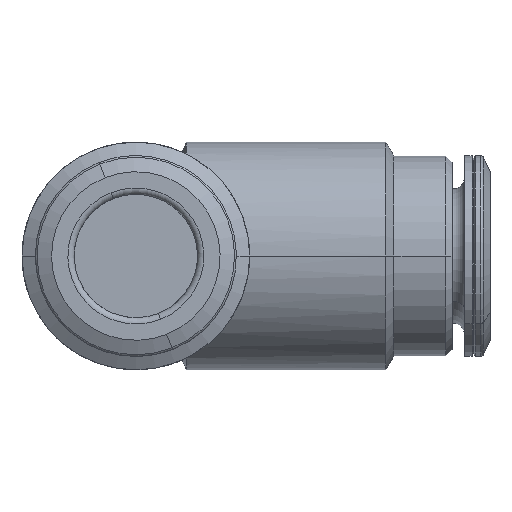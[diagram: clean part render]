
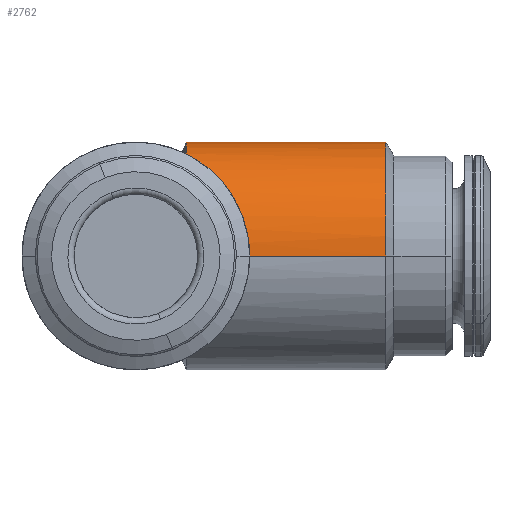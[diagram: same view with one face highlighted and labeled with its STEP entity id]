
A CAD part, left-side view. The second image highlights one B-rep face of the part: STEP entity #2762.
In plain terms, the highlighted cylindrical face has radius 9 mm (diameter 18 mm), a partial arc.
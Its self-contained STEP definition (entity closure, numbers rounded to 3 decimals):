
#269 = AXIS2_PLACEMENT_3D ( 'NONE', #7805, #5015, #1486 ) ;
#462 = ORIENTED_EDGE ( 'NONE', *, *, #3853, .F. ) ;
#555 = CARTESIAN_POINT ( 'NONE',  ( 0., -3.996, 0. ) ) ;
#563 = DIRECTION ( 'NONE',  ( 0., 1., 0. ) ) ;
#604 = CARTESIAN_POINT ( 'NONE',  ( 9., -9., 0. ) ) ;
#726 = DIRECTION ( 'NONE',  ( 0., -1., 0. ) ) ;
#752 = CARTESIAN_POINT ( 'NONE',  ( 7.146, -7.146, 6.503 ) ) ;
#804 = LINE ( 'NONE', #8904, #4313 ) ;
#1032 = EDGE_CURVE ( 'NONE', #8640, #6565, #5906, .T. ) ;
#1113 = CARTESIAN_POINT ( 'NONE',  ( -9., -19.765, 0. ) ) ;
#1182 = CARTESIAN_POINT ( 'NONE',  ( 9., -9., 3.516 ) ) ;
#1320 = ORIENTED_EDGE ( 'NONE', *, *, #7125, .T. ) ;
#1486 = DIRECTION ( 'NONE',  ( -1., 0., 0. ) ) ;
#2082 = DIRECTION ( 'NONE',  ( -1., 0., 0. ) ) ;
#2085 = CARTESIAN_POINT ( 'NONE',  ( 3.996, -3.996, 8.064 ) ) ;
#2349 = VERTEX_POINT ( 'NONE', #8930 ) ;
#2540 = VERTEX_POINT ( 'NONE', #8956 ) ;
#2552 = DIRECTION ( 'NONE',  ( -1., 0., 0. ) ) ;
#2624 = DIRECTION ( 'NONE',  ( 0., 1., 0. ) ) ;
#2634 =( BOUNDED_CURVE ( )  B_SPLINE_CURVE ( 3, ( #604, #1182, #752, #2085 ),
 .UNSPECIFIED., .F., .F. ) 
 B_SPLINE_CURVE_WITH_KNOTS ( ( 4, 4 ),
 ( 3.142, 4.252 ),
 .UNSPECIFIED. ) 
 CURVE ( )  GEOMETRIC_REPRESENTATION_ITEM ( )  RATIONAL_B_SPLINE_CURVE ( ( 1., 0.9, 0.9, 1. ) ) 
 REPRESENTATION_ITEM ( '' )  );
#2762 = ADVANCED_FACE ( 'NONE', ( #7150 ), #8782, .T. ) ;
#2792 =( BOUNDED_CURVE ( )  B_SPLINE_CURVE ( 3, ( #7582, #5577, #6239, #5553 ),
 .UNSPECIFIED., .F., .F. ) 
 B_SPLINE_CURVE_WITH_KNOTS ( ( 4, 4 ),
 ( 3.142, 4.252 ),
 .UNSPECIFIED. ) 
 CURVE ( )  GEOMETRIC_REPRESENTATION_ITEM ( )  RATIONAL_B_SPLINE_CURVE ( ( 1., 0.9, 0.9, 1. ) ) 
 REPRESENTATION_ITEM ( '' )  );
#2816 = EDGE_CURVE ( 'NONE', #2540, #2349, #2792, .T. ) ;
#2940 = DIRECTION ( 'NONE',  ( 0., 1., 0. ) ) ;
#3436 = CARTESIAN_POINT ( 'NONE',  ( 9., -19.765, 0. ) ) ;
#3652 = VERTEX_POINT ( 'NONE', #8301 ) ;
#3853 = EDGE_CURVE ( 'NONE', #2349, #5821, #5950, .T. ) ;
#4090 = EDGE_CURVE ( 'NONE', #8640, #3652, #6473, .T. ) ;
#4313 = VECTOR ( 'NONE', #563, 1000. ) ;
#5015 = DIRECTION ( 'NONE',  ( 0., 1., 0. ) ) ;
#5134 = CARTESIAN_POINT ( 'NONE',  ( 3.996, -3.996, 8.064 ) ) ;
#5553 = CARTESIAN_POINT ( 'NONE',  ( -3.996, -3.996, 8.064 ) ) ;
#5577 = CARTESIAN_POINT ( 'NONE',  ( -9., -9., 3.516 ) ) ;
#5821 = VERTEX_POINT ( 'NONE', #5134 ) ;
#5906 = CIRCLE ( 'NONE', #6681, 9. ) ;
#5950 = CIRCLE ( 'NONE', #269, 9. ) ;
#6239 = CARTESIAN_POINT ( 'NONE',  ( -7.146, -7.146, 6.503 ) ) ;
#6322 = CARTESIAN_POINT ( 'NONE',  ( 0., -19.765, 0. ) ) ;
#6473 = LINE ( 'NONE', #7105, #6923 ) ;
#6565 = VERTEX_POINT ( 'NONE', #1113 ) ;
#6573 = ORIENTED_EDGE ( 'NONE', *, *, #7232, .F. ) ;
#6681 = AXIS2_PLACEMENT_3D ( 'NONE', #6322, #726, #2082 ) ;
#6740 = ORIENTED_EDGE ( 'NONE', *, *, #2816, .F. ) ;
#6923 = VECTOR ( 'NONE', #2940, 1000. ) ;
#7105 = CARTESIAN_POINT ( 'NONE',  ( 9., -3.996, 0. ) ) ;
#7125 = EDGE_CURVE ( 'NONE', #3652, #5821, #2634, .T. ) ;
#7150 = FACE_OUTER_BOUND ( 'NONE', #8992, .T. ) ;
#7232 = EDGE_CURVE ( 'NONE', #6565, #2540, #804, .T. ) ;
#7388 = ORIENTED_EDGE ( 'NONE', *, *, #4090, .T. ) ;
#7582 = CARTESIAN_POINT ( 'NONE',  ( -9., -9., 0. ) ) ;
#7805 = CARTESIAN_POINT ( 'NONE',  ( 0., -3.996, 0. ) ) ;
#8301 = CARTESIAN_POINT ( 'NONE',  ( 9., -9., 0. ) ) ;
#8566 = AXIS2_PLACEMENT_3D ( 'NONE', #555, #2624, #2552 ) ;
#8640 = VERTEX_POINT ( 'NONE', #3436 ) ;
#8782 = CYLINDRICAL_SURFACE ( 'NONE', #8566, 9. ) ;
#8904 = CARTESIAN_POINT ( 'NONE',  ( -9., -3.996, 0. ) ) ;
#8930 = CARTESIAN_POINT ( 'NONE',  ( -3.996, -3.996, 8.064 ) ) ;
#8956 = CARTESIAN_POINT ( 'NONE',  ( -9., -9., 0. ) ) ;
#8992 = EDGE_LOOP ( 'NONE', ( #9021, #7388, #1320, #462, #6740, #6573 ) ) ;
#9021 = ORIENTED_EDGE ( 'NONE', *, *, #1032, .F. ) ;
